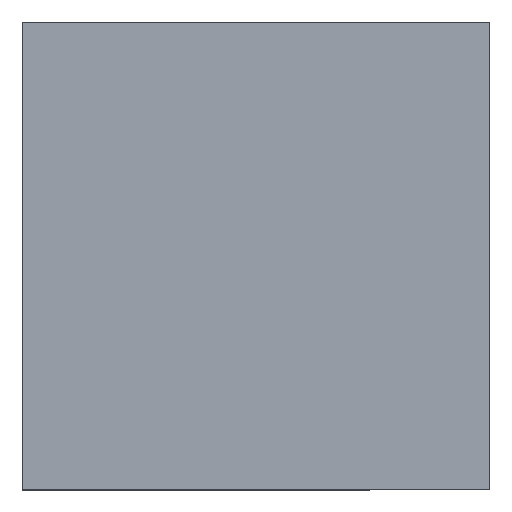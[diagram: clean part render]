
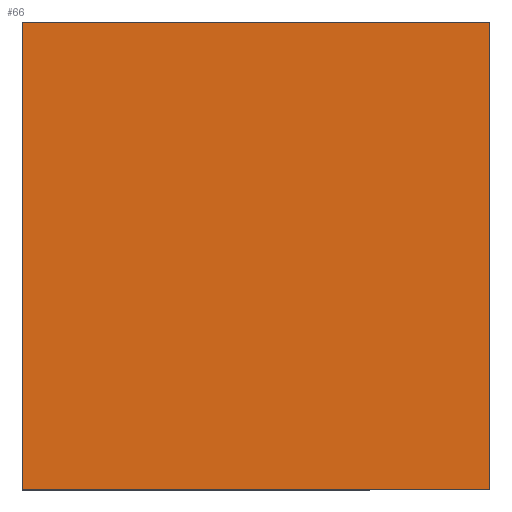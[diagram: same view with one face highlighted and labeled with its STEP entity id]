
A CAD part, top view. The second image highlights one B-rep face of the part: STEP entity #66.
In plain terms, the highlighted planar face has unit normal (0, 0, 1).
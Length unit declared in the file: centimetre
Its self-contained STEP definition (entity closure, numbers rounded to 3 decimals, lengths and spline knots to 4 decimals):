
#5 = CARTESIAN_POINT ( 'NONE',  ( 0., 1000., 1000. ) ) ;
#8 = CARTESIAN_POINT ( 'NONE',  ( 0., 1000., 1000. ) ) ;
#18 = FACE_OUTER_BOUND ( 'NONE', #404, .T. ) ;
#54 = DIRECTION ( 'NONE',  ( -1., 0., 0. ) ) ;
#62 = EDGE_CURVE ( 'NONE', #349, #161, #102, .T. ) ;
#63 = CARTESIAN_POINT ( 'NONE',  ( 1000., 0., 1000. ) ) ;
#66 = ADVANCED_FACE ( 'NONE', ( #18 ), #259, .T. ) ;
#69 = EDGE_CURVE ( 'NONE', #161, #146, #150, .T. ) ;
#90 = ORIENTED_EDGE ( 'NONE', *, *, #329, .T. ) ;
#95 = AXIS2_PLACEMENT_3D ( 'NONE', #583, #192, #383 ) ;
#102 = LINE ( 'NONE', #5, #254 ) ;
#111 = CARTESIAN_POINT ( 'NONE',  ( 0., 1000., 1000. ) ) ;
#118 = LINE ( 'NONE', #547, #511 ) ;
#146 = VERTEX_POINT ( 'NONE', #299 ) ;
#150 = LINE ( 'NONE', #111, #477 ) ;
#161 = VERTEX_POINT ( 'NONE', #8 ) ;
#162 = DIRECTION ( 'NONE',  ( 0., 1., 0. ) ) ;
#187 = VECTOR ( 'NONE', #162, 100. ) ;
#192 = DIRECTION ( 'NONE',  ( 0., 0., 1. ) ) ;
#211 = LINE ( 'NONE', #596, #187 ) ;
#220 = VERTEX_POINT ( 'NONE', #63 ) ;
#254 = VECTOR ( 'NONE', #54, 100. ) ;
#259 = PLANE ( 'NONE',  #95 ) ;
#263 = ORIENTED_EDGE ( 'NONE', *, *, #69, .T. ) ;
#299 = CARTESIAN_POINT ( 'NONE',  ( 0., 0., 1000. ) ) ;
#309 = DIRECTION ( 'NONE',  ( 1., 0., 0. ) ) ;
#329 = EDGE_CURVE ( 'NONE', #220, #349, #211, .T. ) ;
#345 = EDGE_CURVE ( 'NONE', #146, #220, #118, .T. ) ;
#349 = VERTEX_POINT ( 'NONE', #502 ) ;
#364 = ORIENTED_EDGE ( 'NONE', *, *, #345, .T. ) ;
#383 = DIRECTION ( 'NONE',  ( 1., 0., 0. ) ) ;
#404 = EDGE_LOOP ( 'NONE', ( #263, #364, #90, #419 ) ) ;
#419 = ORIENTED_EDGE ( 'NONE', *, *, #62, .T. ) ;
#477 = VECTOR ( 'NONE', #587, 100. ) ;
#502 = CARTESIAN_POINT ( 'NONE',  ( 1000., 1000., 1000. ) ) ;
#511 = VECTOR ( 'NONE', #309, 100. ) ;
#547 = CARTESIAN_POINT ( 'NONE',  ( 0., 0., 1000. ) ) ;
#583 = CARTESIAN_POINT ( 'NONE',  ( 0., 0., 1000. ) ) ;
#587 = DIRECTION ( 'NONE',  ( 0., -1., 0. ) ) ;
#596 = CARTESIAN_POINT ( 'NONE',  ( 1000., 1000., 1000. ) ) ;
